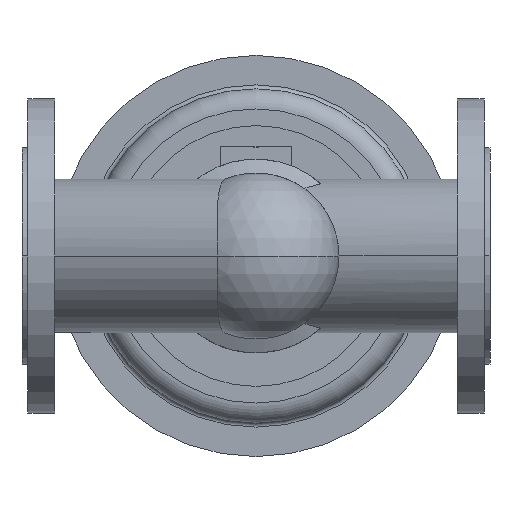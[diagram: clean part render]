
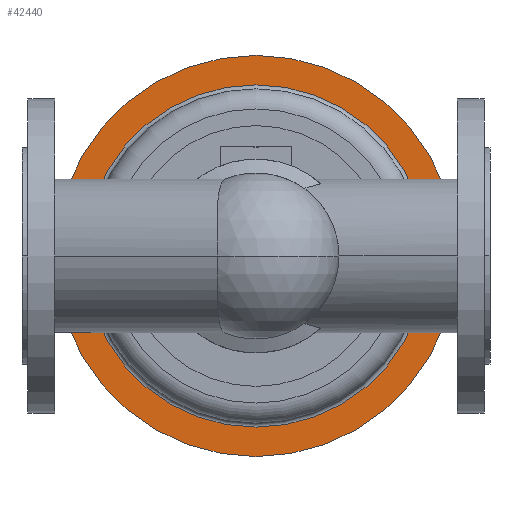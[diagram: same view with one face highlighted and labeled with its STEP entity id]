
A CAD part, front view. The second image highlights one B-rep face of the part: STEP entity #42440.
In plain terms, the highlighted planar face has unit normal (0, -1, 0).
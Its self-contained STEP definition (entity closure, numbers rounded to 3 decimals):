
#33980=CARTESIAN_POINT('',(25.,477.8,0.));
#33990=VERTEX_POINT('',#33980);
#34020=CARTESIAN_POINT('',(175.,477.8,0.));
#34030=DIRECTION('',(0.,1.,0.));
#34040=DIRECTION('',(1.,0.,0.));
#34050=AXIS2_PLACEMENT_3D('',#34020,#34030,#34040);
#34060=CIRCLE('',#34050,150.);
#34070=CARTESIAN_POINT('',(325.,477.8,0.));
#34080=VERTEX_POINT('',#34070);
#34090=EDGE_CURVE('',#34080,#33990,#34060,.T.);
#34410=CARTESIAN_POINT('',(47.,477.8,0.));
#34420=VERTEX_POINT('',#34410);
#34450=CARTESIAN_POINT('',(175.,477.8,0.));
#34460=DIRECTION('',(0.,1.,0.));
#34470=DIRECTION('',(1.,0.,0.));
#34480=AXIS2_PLACEMENT_3D('',#34450,#34460,#34470);
#34490=CIRCLE('',#34480,128.);
#34500=CARTESIAN_POINT('',(303.,477.8,0.));
#34510=VERTEX_POINT('',#34500);
#34520=EDGE_CURVE('',#34420,#34510,#34490,.T.);
#42290=CARTESIAN_POINT('',(314.,477.8,0.));
#42300=DIRECTION('',(0.,-1.,0.));
#42310=DIRECTION('',(-1.,0.,0.));
#42320=AXIS2_PLACEMENT_3D('',#42290,#42300,#42310);
#42330=PLANE('',#42320);
#42340=EDGE_CURVE('',#33990,#34080,#34060,.T.);
#42350=ORIENTED_EDGE('',*,*,#42340,.F.);
#42360=ORIENTED_EDGE('',*,*,#34090,.F.);
#42370=EDGE_LOOP('',(#42360,#42350));
#42380=FACE_OUTER_BOUND('',#42370,.T.);
#42390=EDGE_CURVE('',#34510,#34420,#34490,.T.);
#42400=ORIENTED_EDGE('',*,*,#42390,.T.);
#42410=ORIENTED_EDGE('',*,*,#34520,.T.);
#42420=EDGE_LOOP('',(#42410,#42400));
#42430=FACE_BOUND('',#42420,.T.);
#42440=ADVANCED_FACE('',(#42380,#42430),#42330,.T.);
